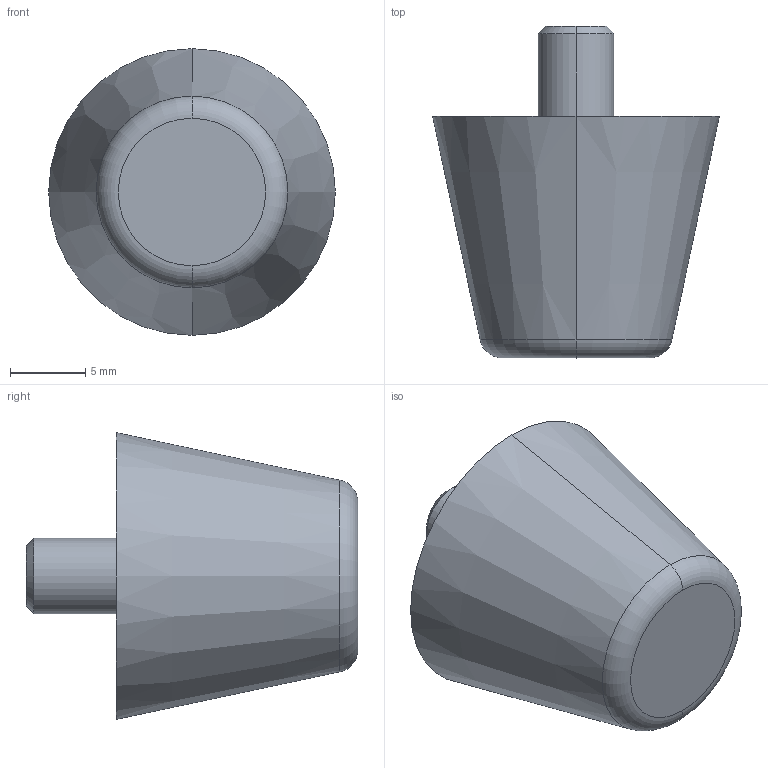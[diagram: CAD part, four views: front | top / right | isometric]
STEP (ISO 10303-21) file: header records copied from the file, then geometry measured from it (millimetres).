
FILE_DESCRIPTION (( 'STEP AP214' ), '1' );
FILE_NAME ('253-19-M5-6-55.step', '2023-03-24T07:37:06', ( '' ), ( '' ), 'SwSTEP 2.0', 'SolidWorks 2022', '' );
FILE_SCHEMA (( 'AUTOMOTIVE_DESIGN' ));
Length unit declared in the file: millimetre
Products named in the file (1): 253-19-M5-6-55
Bounding box: 19 x 21.99 x 19 mm (x, y, z)
Volume: 3210.3 mm3; surface area: 1276.2 mm2
Topology: 1 solids, 1 shells, 14 faces, 26 edges, 16 vertices
Faces by surface type: cone 6, plane 4, cylinder 2, torus 2
Entity records: 500 total; most frequent: DIRECTION 74, CARTESIAN_POINT 57, ORIENTED_EDGE 52, AXIS2_PLACEMENT_3D 33, EDGE_CURVE 26, CIRCLE 18, VERTEX_POINT 16, EDGE_LOOP 16
